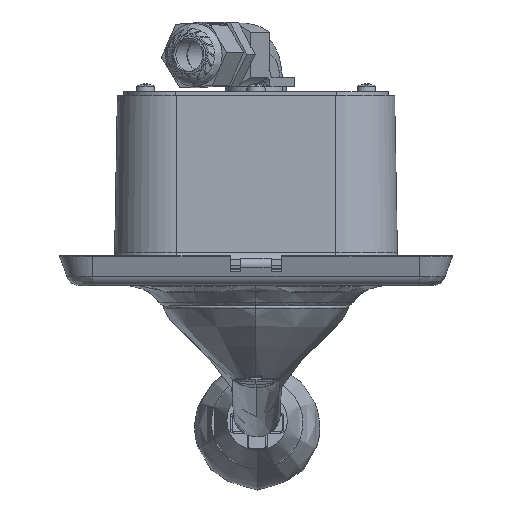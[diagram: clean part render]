
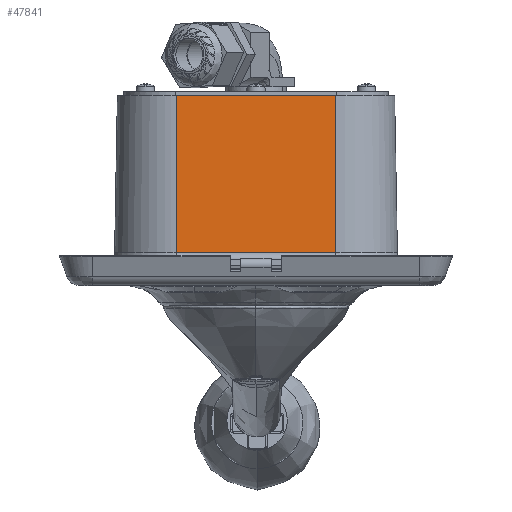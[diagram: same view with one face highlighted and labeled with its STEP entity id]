
A CAD part, left-side view. The second image highlights one B-rep face of the part: STEP entity #47841.
In plain terms, the highlighted free-form (B-spline) face has degree [3, 3] with [4, 4] control points.
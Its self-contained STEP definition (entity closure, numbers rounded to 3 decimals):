
#36915=CARTESIAN_POINT('',(-68.966,-23.75,6.965));
#36927=DIRECTION('',(-0.017,0.,-1.));
#36928=VECTOR('',#36927,47.042);
#36929=CARTESIAN_POINT('',(-68.145,-23.75,54.));
#36930=LINE('',#36929,#36928);
#36951=DIRECTION('',(0.,-1.,0.));
#36952=VECTOR('',#36951,47.5);
#36953=CARTESIAN_POINT('',(-68.966,23.75,6.965));
#36954=LINE('',#36953,#36952);
#36967=DIRECTION('',(0.017,0.,1.));
#36968=VECTOR('',#36967,47.042);
#36969=CARTESIAN_POINT('',(-68.966,23.75,6.965));
#36970=LINE('',#36969,#36968);
#37023=DIRECTION('',(0.,-1.,0.));
#37024=VECTOR('',#37023,47.5);
#37025=CARTESIAN_POINT('',(-68.145,23.75,54.));
#37026=LINE('',#37025,#37024);
#45024=VERTEX_POINT('',#36915);
#45026=CARTESIAN_POINT('',(-68.966,23.75,6.965));
#45027=VERTEX_POINT('',#45026);
#45189=CARTESIAN_POINT('',(-68.145,-23.75,54.));
#45190=VERTEX_POINT('',#45189);
#45191=CARTESIAN_POINT('',(-68.145,23.75,54.));
#45192=VERTEX_POINT('',#45191);
#47816=CARTESIAN_POINT('',(-68.982,-24.7,6.024));
#47817=CARTESIAN_POINT('',(-68.982,-8.233,
6.024));
#47818=CARTESIAN_POINT('',(-68.982,8.233,
6.024));
#47819=CARTESIAN_POINT('',(-68.982,24.7,6.024));
#47820=CARTESIAN_POINT('',(-68.698,-24.7,22.33));
#47821=CARTESIAN_POINT('',(-68.698,-8.233,
22.33));
#47822=CARTESIAN_POINT('',(-68.698,8.233,
22.33));
#47823=CARTESIAN_POINT('',(-68.698,24.7,22.33));
#47824=CARTESIAN_POINT('',(-68.413,-24.7,38.635));
#47825=CARTESIAN_POINT('',(-68.413,-8.233,
38.635));
#47826=CARTESIAN_POINT('',(-68.413,8.233,
38.635));
#47827=CARTESIAN_POINT('',(-68.413,24.7,38.635));
#47828=CARTESIAN_POINT('',(-68.128,-24.7,54.941));
#47829=CARTESIAN_POINT('',(-68.128,-8.233,
54.941));
#47830=CARTESIAN_POINT('',(-68.128,8.233,
54.941));
#47831=CARTESIAN_POINT('',(-68.128,24.7,54.941));
#47832=B_SPLINE_SURFACE_WITH_KNOTS('',3,3,((#47816,#47817,#47818,#47819),
(#47820,#47821,#47822,#47823),(#47824,#47825,#47826,#47827),(#47828,#47829,
#47830,#47831)),.UNSPECIFIED.,.F.,.F.,.F.,(4,4),(4,4),(-2.446,
2.446),(-0.095,4.845),.UNSPECIFIED.);
#47833=ORIENTED_EDGE('',*,*,#47807,.F.);
#47835=ORIENTED_EDGE('',*,*,#47834,.T.);
#47837=ORIENTED_EDGE('',*,*,#47836,.T.);
#47838=ORIENTED_EDGE('',*,*,#47765,.T.);
#47839=EDGE_LOOP('',(#47833,#47835,#47837,#47838));
#47840=FACE_OUTER_BOUND('',#47839,.F.);
#47841=ADVANCED_FACE('',(#47840),#47832,.T.);
#47765=EDGE_CURVE('',#45190,#45024,#36930,.T.);
#47807=EDGE_CURVE('',#45027,#45024,#36954,.T.);
#47834=EDGE_CURVE('',#45027,#45192,#36970,.T.);
#47836=EDGE_CURVE('',#45192,#45190,#37026,.T.);
